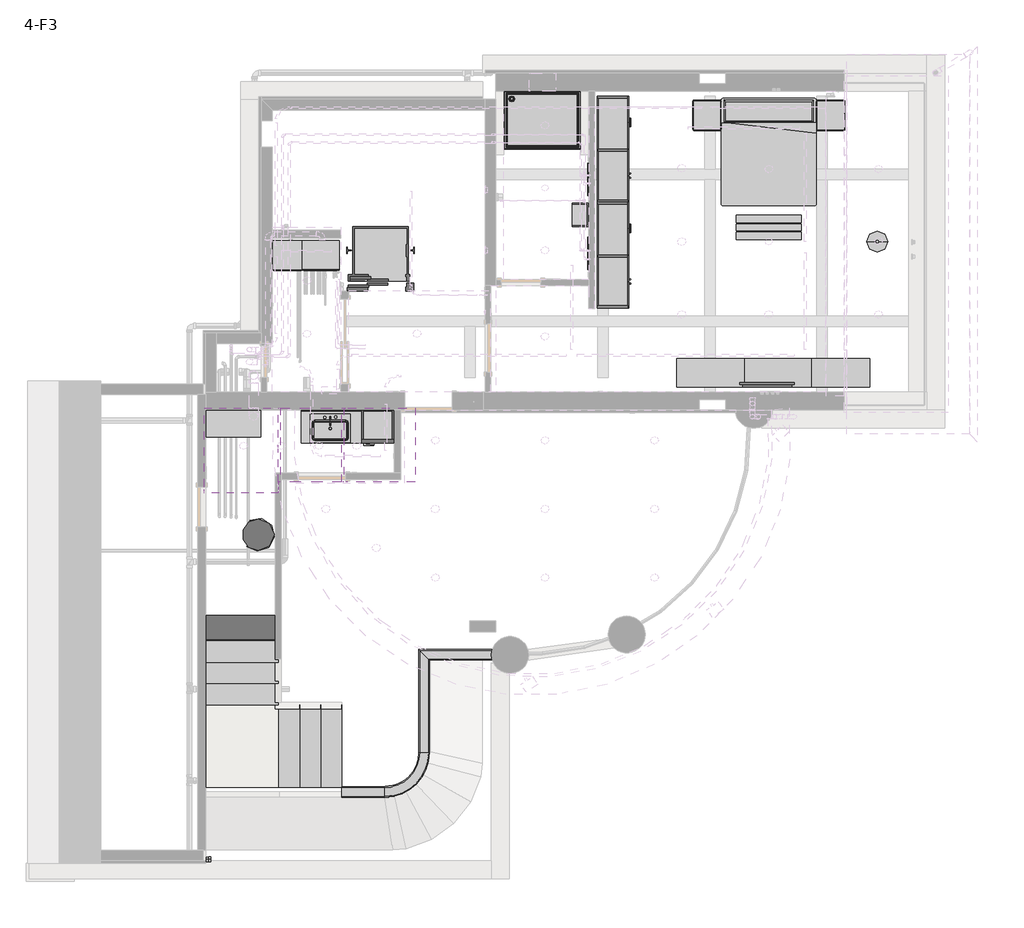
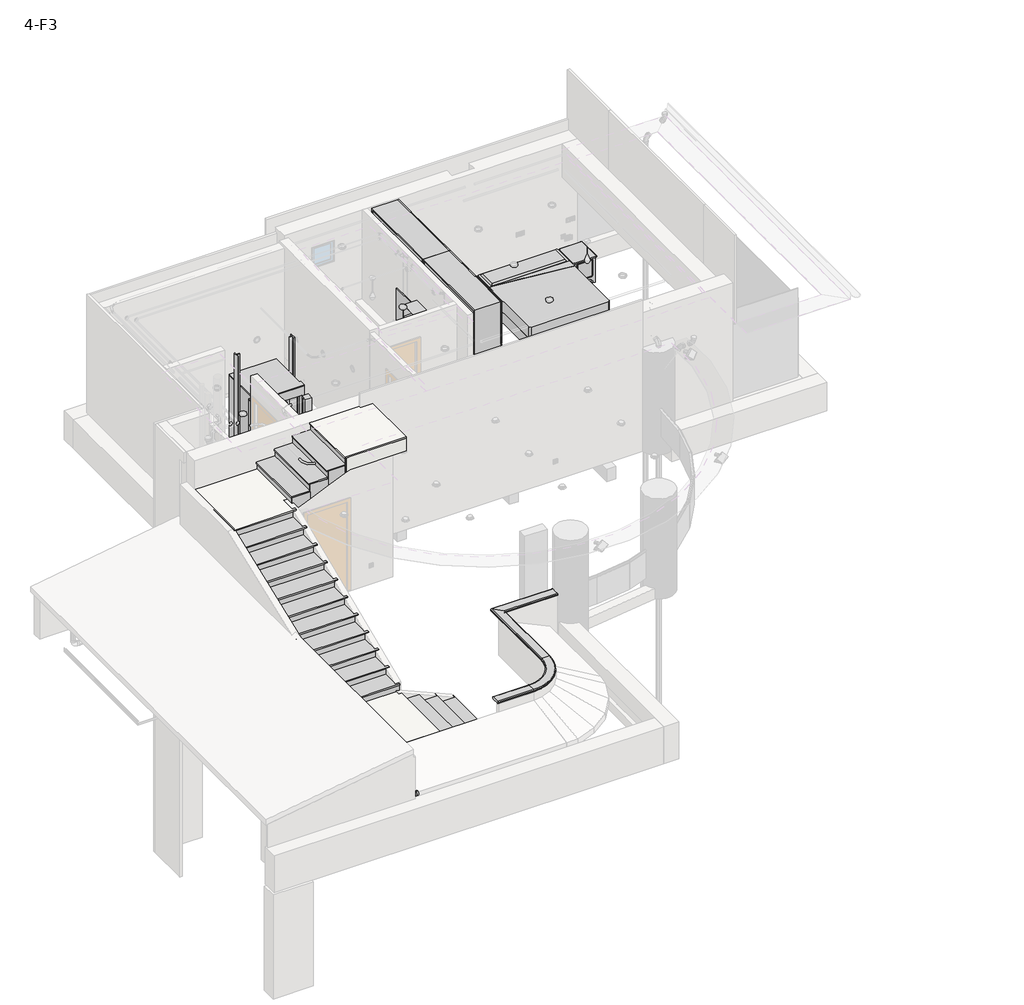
# One storey, part 4 of 11: 15 furniture elements, 4 flow terminals, 4 proxies, 3 pipe fittings, 3 slabs, 3 stair flights, 2 pipe segments, 1 railing.
"""IFC4 building model written with IfcOpenShell, lengths in millimetres."""

from ifc_helpers import new_model, si_unit, point, frame, frame_2d, origin, place, context, project, spatial, polyline, circle_curve, trimmed, segment, composite_curve, outline, extrude, faceted_brep, transform, mapped, element, save
from components import dryer_600_x_820_x_550mm_fe8a08c6, m_electric_lift_4_person_wall_based_type_1_27931067, washer_2_nz_600_x_820_x_550mm_ef1b6fe7, flow_terminal_60cm_be37bac6, floor_drain_side_discharge_round_15cm_01de1a23, m_sink_kitchen_single_760_x_535mm_d14251e7, shower_tray_1_110x_1450mm_wide_fd7da13c, furniture_10ea46e1, furniture_1wardrobe_6271_1wardrobe_6271_757ea330, bed_side_table_9129_bed_side_table_9129_b31ec6e2, bed_small_sizes_aus_king_single_10816c3c, bench_locker_room_1220_x_457_x_356mm_af128f29, counter_top_w_sink_600mm_depth_e0dbcb41, furniture_2_furniture_2_3946703e, m_table_round_200_289049f1, sideboard_1220_x_510_x_1070mm_fd823649, sideboard_1220_x_510_x_1070mm_a7be34db, furniture_91679fb3, m_bend_pvc_sch_40_dwv_standard_a4b99d37, new_rail_2_90addaf1

model = new_model("IFC4")

# Units and contexts
model_context = context("Model", 3, world=origin())
ifc_project = project(units=[si_unit("LENGTHUNIT", "METRE", prefix="MILLI")], contexts=[model_context])

# Site, building, storey
site = spatial("IfcSite", under=ifc_project)
building = spatial("IfcBuilding", under=site)
storey = spatial("IfcBuildingStorey", under=building, Name="4-F3", Elevation=9900.0)

# Proxies
placement = place(None, origin())
dryer_600_x_820_x_550mm_shape = dryer_600_x_820_x_550mm_fe8a08c6(model_context)
element("IfcBuildingElementProxy", 1, Name="Dryer : 600 x 820 x 550mm", ObjectType="Dryer : 600 x 820 x 550mm", at=placement, inside=storey, context=model_context, shape_type="MappedRepresentation", body=[
    mapped(dryer_600_x_820_x_550mm_shape, transform((-4088.7901507, 6159.4560655, 9950.0), x_axis=(-1.0, 0.0, 0.0), y_axis=(0.0, -1.0, 0.0), z_axis=(0.0, 0.0, 1.0))),
])
m_electric_lift_4_person_wall_based_type_1_shape = m_electric_lift_4_person_wall_based_type_1_27931067(model_context)
element("IfcBuildingElementProxy", 2, Name="M_Electric Lift-4 person wall based : Type 1", ObjectType="M_Electric Lift-4 person wall based : Type 1", at=placement, inside=storey, context=model_context, shape_type="MappedRepresentation", body=[
    mapped(m_electric_lift_4_person_wall_based_type_1_shape, transform((-2932.4765921, 5159.4560655, 9900.0), x_axis=(1.0, 0.0, 0.0), y_axis=(0.0, 1.0, 0.0), z_axis=(0.0, 0.0, 1.0))),
])
element("IfcBuildingElementProxy", 3, Name="Refrigerator 1 (NZ) : 600 x 660mm", ObjectType="Refrigerator 1 (NZ) : 600 x 660mm", at=placement, inside=storey, context=model_context, shape_type="SweptSolid", body=[
    extrude(outline(polyline([(11780.0, -3159.8743069), (10000.8, -3159.8743069), (10000.8, -2559.8743069), (11780.0, -2559.8743069), (11780.0, -3159.8743069)]), holes=[polyline([(11576.8, -3134.4743069), (11576.8, -2585.2743069), (10381.8, -2585.2743069), (10381.8, -3134.4743069), (11576.8, -3134.4743069)])]), frame((0.0, 2288.1986583, 0.0), z_axis=(0.0, 1.0, 0.0), x_axis=(0.0, 0.0, 1.0)), (0.0, 0.0, 1.0), 577.45),
    extrude(outline(polyline([(-3134.4743069, 2840.2486583), (-3134.4743069, 2865.6486583), (-2585.2743069, 2865.6486583), (-2585.2743069, 2840.2486583), (-3134.4743069, 2840.2486583)])), frame((0.0, 0.0, 10102.4), z_axis=(0.0, 0.0, 1.0), x_axis=(1.0, 0.0, 0.0)), (0.0, 0.0, 1.0), 1652.2),
    extrude(outline(polyline([(-3159.8743069, 2205.6486583), (-3159.8743069, 2275.4986583), (-2559.8743069, 2275.4986583), (-2559.8743069, 2205.6486583), (-3159.8743069, 2205.6486583)])), frame((0.0, 0.0, 10000.8), z_axis=(0.0, 0.0, 1.0), x_axis=(1.0, 0.0, 0.0)), (0.0, 0.0, 1.0), 1601.4),
    extrude(outline(polyline([(-3159.8743069, 2205.6486583), (-3159.8743069, 2275.4986583), (-2559.8743069, 2275.4986583), (-2559.8743069, 2205.6486583), (-3159.8743069, 2205.6486583)])), frame((0.0, 0.0, 11614.9), z_axis=(0.0, 0.0, 1.0), x_axis=(1.0, 0.0, 0.0)), (0.0, 0.0, 1.0), 165.1),
    extrude(outline(composite_curve([segment(trimmed(circle_curve(frame_2d((-2642.4243069, 2789.4486583)), 25.4), [point((-2617.0243069, 2789.4486583))], [point((-2667.8243069, 2789.4486583))], False, "CARTESIAN"), True, "CONTINUOUS"), segment(trimmed(circle_curve(frame_2d((-2642.4243069, 2789.4486583)), 25.4), [point((-2667.8243069, 2789.4486583))], [point((-2617.0243069, 2789.4486583))], False, "CARTESIAN"), True, "CONTINUOUS")], self_intersect=False)), frame((0.0, 0.0, 9950.0), z_axis=(0.0, 0.0, 1.0), x_axis=(1.0, 0.0, 0.0)), (0.0, 0.0, 1.0), 50.8),
    extrude(outline(composite_curve([segment(trimmed(circle_curve(frame_2d((-3077.3243069, 2789.4486583)), 25.4), [point((-3051.9243069, 2789.4486583))], [point((-3102.7243069, 2789.4486583))], False, "CARTESIAN"), True, "CONTINUOUS"), segment(trimmed(circle_curve(frame_2d((-3077.3243069, 2789.4486583)), 25.4), [point((-3102.7243069, 2789.4486583))], [point((-3051.9243069, 2789.4486583))], False, "CARTESIAN"), True, "CONTINUOUS")], self_intersect=False)), frame((0.0, 0.0, 9950.0), z_axis=(0.0, 0.0, 1.0), x_axis=(1.0, 0.0, 0.0)), (0.0, 0.0, 1.0), 50.8),
    extrude(outline(composite_curve([segment(trimmed(circle_curve(frame_2d((-2642.4243069, 2332.6486583)), 25.4), [point((-2617.0243069, 2332.6486583))], [point((-2667.8243069, 2332.6486583))], False, "CARTESIAN"), True, "CONTINUOUS"), segment(trimmed(circle_curve(frame_2d((-2642.4243069, 2332.6486583)), 25.4), [point((-2667.8243069, 2332.6486583))], [point((-2617.0243069, 2332.6486583))], False, "CARTESIAN"), True, "CONTINUOUS")], self_intersect=False)), frame((0.0, 0.0, 9950.0), z_axis=(0.0, 0.0, 1.0), x_axis=(1.0, 0.0, 0.0)), (0.0, 0.0, 1.0), 50.8),
    extrude(outline(composite_curve([segment(trimmed(circle_curve(frame_2d((-3077.3243069, 2332.6486583)), 25.4), [point((-3051.9243069, 2332.6486583))], [point((-3102.7243069, 2332.6486583))], False, "CARTESIAN"), True, "CONTINUOUS"), segment(trimmed(circle_curve(frame_2d((-3077.3243069, 2332.6486583)), 25.4), [point((-3102.7243069, 2332.6486583))], [point((-3051.9243069, 2332.6486583))], False, "CARTESIAN"), True, "CONTINUOUS")], self_intersect=False)), frame((0.0, 0.0, 9950.0), z_axis=(0.0, 0.0, 1.0), x_axis=(1.0, 0.0, 0.0)), (0.0, 0.0, 1.0), 50.8),
    extrude(outline(polyline([(-3121.7743069, 2161.329882), (-3121.7743069, 2205.6486583), (-3082.5996914, 2205.6486583), (-3082.5996914, 2186.3977063), (-2938.8510878, 2171.1791754), (-2928.9027521, 2184.6864613), (-2922.3995232, 2179.8967274), (-2936.0743069, 2161.329882), (-3121.7743069, 2161.329882)])), frame((0.0, 0.0, 11021.927792), z_axis=(0.0, 0.0, 1.0), x_axis=(1.0, 0.0, 0.0)), (0.0, 0.0, 1.0), 31.75),
])
washer_2_nz_600_x_820_x_550mm_shape = washer_2_nz_600_x_820_x_550mm_ef1b6fe7(model_context)
element("IfcBuildingElementProxy", 4, Name="Washer 2 (NZ) : 600 x 820 x 550mm", ObjectType="Washer 2 (NZ) : 600 x 820 x 550mm", at=placement, inside=storey, context=model_context, shape_type="MappedRepresentation", body=[
    mapped(washer_2_nz_600_x_820_x_550mm_shape, transform((-4708.7901507, 6159.4560655, 9900.0), x_axis=(-1.0, 0.0, 0.0), y_axis=(0.0, -1.0, 0.0), z_axis=(0.0, 0.0, 1.0))),
])

# Flow terminals
flow_terminal_60cm_shape = flow_terminal_60cm_be37bac6(model_context)
element("IfcFlowTerminal", 5, ObjectType="_DUPLEX SOFTENER 60CM - : 60CM", at=placement, inside=storey, context=model_context, shape_type="MappedRepresentation", body=[
    mapped(flow_terminal_60cm_shape, transform((-5120.0, 476.4863231, 9950.0), x_axis=(0.0, -1.0, 0.0), y_axis=(1.0, 0.0, 0.0), z_axis=(0.0, 0.0, 1.0))),
])
floor_drain_side_discharge_round_15cm_shape = floor_drain_side_discharge_round_15cm_01de1a23(model_context)
element("IfcFlowTerminal", 6, ObjectType="Floor Drain Side Discharge Round : 15cm", at=placement, inside=storey, context=model_context, shape_type="MappedRepresentation", body=[
    mapped(floor_drain_side_discharge_round_15cm_shape, transform((-377.4765921, 8711.6620874, 9950.0), x_axis=(1.0, 0.0, 0.0), y_axis=(0.0, 1.0, 0.0), z_axis=(0.0, 0.0, 1.0))),
])
m_sink_kitchen_single_760_x_535mm_shape = m_sink_kitchen_single_760_x_535mm_d14251e7(model_context)
element("IfcFlowTerminal", 7, ObjectType="M_Sink Kitchen-Single : 760 x 535mm", at=placement, inside=storey, context=model_context, shape_type="MappedRepresentation", body=[
    mapped(m_sink_kitchen_single_760_x_535mm_shape, transform((-3773.1658327, 2484.140922, 9950.0), x_axis=(1.0, 0.0, 0.0), y_axis=(0.0, 1.0, 0.0), z_axis=(0.0, 0.0, 1.0))),
])
shower_tray_1_110x_1450mm_wide_shape = shower_tray_1_110x_1450mm_wide_fd7da13c(model_context)
element("IfcFlowTerminal", 8, ObjectType="Shower Tray (1) : 110x 1450mm Wide", at=placement, inside=storey, context=model_context, shape_type="MappedRepresentation", body=[
    mapped(shower_tray_1_110x_1450mm_wide_shape, transform((247.5234079, 8311.6620874, 9950.0), x_axis=(1.0, 0.0, 0.0), y_axis=(0.0, 1.0, 0.0), z_axis=(0.0, 0.0, 1.0))),
])

# Furniture
furniture_shape = furniture_10ea46e1(model_context)
element("IfcFurniture", 9, ObjectType="Hamilton-Sorter_Modular-Casework_Storage-Cabinet_Open : Hamilton-Sorter_Modular-Casework_Storage-Cabinet_Open", at=placement, inside=storey, context=model_context, shape_type="MappedRepresentation", body=[
    mapped(furniture_shape, transform((1579.5234079, 6519.8354313, 10850.0), x_axis=(0.0, -1.0, 0.0), y_axis=(1.0, 0.0, 0.0), z_axis=(0.0, 0.0, 1.0))),
])
furniture_1wardrobe_6271_1wardrobe_6271_shape = furniture_1wardrobe_6271_1wardrobe_6271_757ea330(model_context)
element("IfcFurniture", 10, ObjectType="1Wardrobe_6271 : 1Wardrobe_6271", at=placement, inside=storey, context=model_context, shape_type="MappedRepresentation", body=[
    mapped(furniture_1wardrobe_6271_1wardrobe_6271_shape, transform((1282.5234079, 6761.6620874, 9950.0), x_axis=(0.0, 1.0, 0.0), y_axis=(-1.0, 0.0, 0.0), z_axis=(0.0, 0.0, 1.0))),
])
element("IfcFurniture", 11, ObjectType="1Wardrobe_6271 : 1Wardrobe_6271", at=placement, inside=storey, context=model_context, shape_type="MappedRepresentation", body=[
    mapped(furniture_1wardrobe_6271_1wardrobe_6271_shape, transform((1282.5234079, 4761.6620874, 9950.0), x_axis=(0.0, 1.0, 0.0), y_axis=(-1.0, 0.0, 0.0), z_axis=(0.0, 0.0, 1.0))),
])
bed_side_table_9129_bed_side_table_9129_shape = bed_side_table_9129_bed_side_table_9129_b31ec6e2(model_context)
element("IfcFurniture", 12, ObjectType="BED_SIDE_TABLE_9129 : BED_SIDE_TABLE_9129", at=placement, inside=storey, context=model_context, shape_type="MappedRepresentation", body=[
    mapped(bed_side_table_9129_bed_side_table_9129_shape, transform((3395.1712416, 8360.0, 9950.0), x_axis=(0.0, 1.0, 0.0), y_axis=(-1.0, 0.0, 0.0), z_axis=(0.0, 0.0, 1.0))),
])
element("IfcFurniture", 13, ObjectType="BED_SIDE_TABLE_9129 : BED_SIDE_TABLE_9129", at=placement, inside=storey, context=model_context, shape_type="MappedRepresentation", body=[
    mapped(bed_side_table_9129_bed_side_table_9129_shape, transform((5730.1712416, 8360.0, 9950.0), x_axis=(0.0, 1.0, 0.0), y_axis=(-1.0, 0.0, 0.0), z_axis=(0.0, 0.0, 1.0))),
])
bed_small_sizes_aus_king_single_shape = bed_small_sizes_aus_king_single_10816c3c(model_context)
element("IfcFurniture", 14, ObjectType="Bed - Small Sizes (AUS) : King Single", at=placement, inside=storey, context=model_context, shape_type="MappedRepresentation", body=[
    mapped(bed_small_sizes_aus_king_single_shape, transform((4547.8744584, 8721.6620874, 9950.0), x_axis=(1.0, 0.0, 0.0), y_axis=(0.0, 1.0, 0.0), z_axis=(0.0, 0.0, 1.0))),
])
bench_locker_room_1220_x_457_x_356mm_shape = bench_locker_room_1220_x_457_x_356mm_af128f29(model_context)
element("IfcFurniture", 15, ObjectType="Bench - Locker Room : 1220 x 457 x 356mm", at=placement, inside=storey, context=model_context, shape_type="MappedRepresentation", body=[
    mapped(bench_locker_room_1220_x_457_x_356mm_shape, transform((4680.515203, 6465.1708196, 9950.0), x_axis=(1.0, 0.0, 0.0), y_axis=(0.0, 1.0, 0.0), z_axis=(0.0, 0.0, 1.0))),
])
element("IfcFurniture", 16, ObjectType="Counter Top - Island : 1220mm Depth", at=placement, inside=storey, context=model_context, shape_type="SweptSolid", body=[
    extrude(outline(polyline([(-6110.0, 2830.6486583), (-5066.3015921, 2830.6486583), (-5066.3015921, 2320.6486583), (-6110.0, 2320.6486583), (-6110.0, 2830.6486583)])), frame((0.0, 0.0, 10810.0), z_axis=(0.0, 0.0, 1.0), x_axis=(1.0, 0.0, 0.0)), (0.0, 0.0, 1.0), 40.0),
])
counter_top_w_sink_600mm_depth_shape = counter_top_w_sink_600mm_depth_e0dbcb41(model_context)
element("IfcFurniture", 17, ObjectType="Counter Top w Sink : 600mm Depth", at=placement, inside=storey, context=model_context, shape_type="MappedRepresentation", body=[
    mapped(counter_top_w_sink_600mm_depth_shape, transform((-3106.9539601, 2830.6486583, 9950.0), x_axis=(1.0, 0.0, 0.0), y_axis=(0.0, 1.0, 0.0), z_axis=(0.0, 0.0, 1.0))),
])
furniture_2_furniture_2_shape = furniture_2_furniture_2_3946703e(model_context)
element("IfcFurniture", 18, ObjectType="Furniture 2 : Furniture 2", at=placement, inside=storey, context=model_context, shape_type="MappedRepresentation", body=[
    mapped(furniture_2_furniture_2_shape, transform((0.0, 0.0, 0.0), x_axis=(1.0, 0.0, 0.0), y_axis=(0.0, 1.0, 0.0), z_axis=(0.0, 0.0, 1.0))),
])
m_table_round_200_shape = m_table_round_200_289049f1(model_context)
element("IfcFurniture", 19, ObjectType="M_Table-Round : 200", at=placement, inside=storey, context=model_context, shape_type="MappedRepresentation", body=[
    mapped(m_table_round_200_shape, transform((6574.8425957, 6013.8093331, 9900.0), x_axis=(1.0, 0.0, 0.0), y_axis=(0.0, 1.0, 0.0), z_axis=(0.0, 0.0, 1.0))),
])
sideboard_1220_x_510_x_1070mm_shape = sideboard_1220_x_510_x_1070mm_fd823649(model_context)
element("IfcFurniture", 20, ObjectType="Sideboard : 1220 x 510 x 1070mm", at=placement, inside=storey, context=model_context, shape_type="MappedRepresentation", body=[
    mapped(sideboard_1220_x_510_x_1070mm_shape, transform((5501.4071891, 3158.323369, 9950.0), x_axis=(-1.0, 0.0, 0.0), y_axis=(0.0, -1.0, 0.0), z_axis=(0.0, 0.0, 1.0))),
])
element("IfcFurniture", 21, ObjectType="Sideboard : 1220 x 510 x 1070mm", at=placement, inside=storey, context=model_context, shape_type="MappedRepresentation", body=[
    mapped(sideboard_1220_x_510_x_1070mm_shape, transform((3131.4675635, 3158.323369, 9950.0), x_axis=(-1.0, 0.0, 0.0), y_axis=(0.0, -1.0, 0.0), z_axis=(0.0, 0.0, 1.0))),
])
sideboard_1220_x_510_x_1070mm_2_shape = sideboard_1220_x_510_x_1070mm_a7be34db(model_context)
element("IfcFurniture", 22, ObjectType="Sideboard : 1220 x 510 x 1070mm", at=placement, inside=storey, context=model_context, shape_type="MappedRepresentation", body=[
    mapped(sideboard_1220_x_510_x_1070mm_2_shape, transform((4991.4540832, 3158.323369, 9950.0), x_axis=(1.0, 0.0, 0.0), y_axis=(0.0, 1.0, 0.0), z_axis=(0.0, 0.0, 1.0))),
])
furniture_2_shape = furniture_91679fb3(model_context)
element("IfcFurniture", 23, ObjectType="Television - Plasma : 42\"", at=placement, inside=storey, context=model_context, shape_type="MappedRepresentation", body=[
    mapped(furniture_2_shape, transform((4550.67749, 3266.4863231, 11050.0), x_axis=(-1.0, 0.0, 0.0), y_axis=(0.0, -1.0, 0.0), z_axis=(0.0, 0.0, 1.0))),
])

# Pipe fittings
m_bend_pvc_sch_40_dwv_standard_shape = m_bend_pvc_sch_40_dwv_standard_a4b99d37(model_context)
element("IfcPipeFitting", 24, ObjectType="M_Bend - PVC - Sch 40 - DWV : Standard", at=placement, inside=storey, context=model_context, shape_type="MappedRepresentation", body=[
    mapped(m_bend_pvc_sch_40_dwv_standard_shape, transform((-6417.4765921, -5661.5598816, 9903.4220341), x_axis=(0.0, -1.0, 0.0), y_axis=(1.0, 0.0, 0.0), z_axis=(0.0, 0.0, 1.0))),
])
element("IfcPipeFitting", 25, ObjectType="M_Bend - PVC - Sch 40 - DWV : Standard", at=placement, inside=storey, context=model_context, shape_type="MappedRepresentation", body=[
    mapped(m_bend_pvc_sch_40_dwv_standard_shape, transform((-6132.4765921, -5661.5598816, 9903.4220341), x_axis=(1.0, 0.0, 0.0), y_axis=(0.0, 0.0, 1.0), z_axis=(0.0, -1.0, 0.0))),
])
element("IfcPipeFitting", 26, ObjectType="M_Bend - PVC - Sch 40 - DWV : Standard", at=placement, inside=storey, context=model_context, shape_type="MappedRepresentation", body=[
    mapped(m_bend_pvc_sch_40_dwv_standard_shape, transform((-6132.4765921, -5661.5599954, 10400.0), x_axis=(0.0, 0.0, 1.0), y_axis=(1.0, 0.0, 0.0), z_axis=(0.0, 1.0, 0.0))),
])

# Pipe segments
element("IfcPipeSegment", 27, ObjectType="PVC - DWV", at=placement, inside=storey, context=model_context, shape_type="SweptSolid", body=[
    extrude(outline(composite_curve([segment(trimmed(circle_curve(frame_2d((-5661.5598816, 9903.4220341)), 44.45), [point((-5617.1098816, 9903.4220341))], [point((-5661.5598816, 9858.9720341))], False, "CARTESIAN"), True, "CONTINUOUS"), segment(trimmed(circle_curve(frame_2d((-5661.5598816, 9903.4220341)), 44.45), [point((-5661.5598816, 9858.9720341))], [point((-5706.0098816, 9903.4220341))], False, "CARTESIAN"), True, "CONTINUOUS"), segment(trimmed(circle_curve(frame_2d((-5661.5598816, 9903.4220341)), 44.45), [point((-5706.0098816, 9903.4220341))], [point((-5661.5598816, 9947.8720341))], False, "CARTESIAN"), True, "CONTINUOUS"), segment(trimmed(circle_curve(frame_2d((-5661.5598816, 9903.4220341)), 44.45), [point((-5661.5598816, 9947.8720341))], [point((-5617.1098816, 9903.4220341))], False, "CARTESIAN"), True, "CONTINUOUS")], self_intersect=False)), frame((-6301.5763921, 0.0, 0.0), z_axis=(1.0, 0.0, 0.0), x_axis=(0.0, 1.0, 0.0)), (0.0, 0.0, 1.0), 53.1996),
])
element("IfcPipeSegment", 28, ObjectType="PVC - DWV", at=placement, inside=storey, context=model_context, shape_type="SweptSolid", body=[
    extrude(outline(composite_curve([segment(trimmed(circle_curve(frame_2d((0.0, 44.45)), 44.45), [point((-44.45, 44.45))], [point((0.0, 88.9))], False, "CARTESIAN"), True, "CONTINUOUS"), segment(trimmed(circle_curve(frame_2d((0.0, 44.45)), 44.45), [point((0.0, 88.9))], [point((44.45, 44.45))], False, "CARTESIAN"), True, "CONTINUOUS"), segment(trimmed(circle_curve(frame_2d((0.0, 44.45)), 44.45), [point((44.45, 44.45))], [point((0.0, 0.0))], False, "CARTESIAN"), True, "CONTINUOUS"), segment(trimmed(circle_curve(frame_2d((0.0, 44.45)), 44.45), [point((0.0, 0.0))], [point((-44.45, 44.45))], False, "CARTESIAN"), True, "CONTINUOUS")], self_intersect=False)), frame((-6132.4765921, -5706.0098816, 10019.322215), z_axis=(0.0, -4.29689277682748e-07, 0.9999999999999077), x_axis=(1.0, 0.0, 0.0)), (0.0, 0.0, 1.0), 264.7775659),
])

# Railing
new_rail_2_shape = new_rail_2_90addaf1(model_context)
element("IfcRailing", 29, ObjectType="new rail 2", at=placement, inside=storey, context=model_context, shape_type="MappedRepresentation", body=[
    mapped(new_rail_2_shape, transform((0.0, 0.0, 0.0), x_axis=(1.0, 0.0, 0.0), y_axis=(0.0, 1.0, 0.0), z_axis=(0.0, 0.0, 1.0))),
])

# Slabs
element("IfcSlab", 30, ObjectType="300mm Thickness", at=placement, inside=storey, context=model_context, shape_type="SolidModel", body=[
    faceted_brep([(-4768.5979415, -4296.2348475, 10554.2105263), (-4768.5979415, -2738.0228963, 10554.2105263), (-4736.0979415, -2738.0228963, 10554.2105263), (-4736.0979415, -2705.5228963, 10554.2105263), (-6136.0979415, -2705.5228963, 10554.2105263), (-6136.0979415, -2738.0228963, 10554.2105263), (-6136.0979415, -3025.5655476, 10554.2105263), (-6136.0979415, -4296.2348475, 10554.2105263), (-4848.5552902, -4296.2348475, 10554.2105263), (-4768.5979415, -4296.2348475, 10383.1578947), (-4768.5979415, -4296.2348475, 10220.018239), (-4768.5979415, -2738.0228963, 10220.018239), (-4768.5979415, -2738.0228963, 10377.1728443), (-4768.5979415, -2738.0228963, 10383.1578947), (-4736.0979415, -2738.0228963, 10377.1728443), (-4736.0979415, -2705.5228963, 10391.0708706), (-6136.0979415, -2705.5228963, 10391.0708706), (-6136.0979415, -2738.0228963, 10377.1728443), (-6136.0979415, -3025.5655476, 10254.2105263), (-6136.0979415, -4296.2348475, 10254.2105263), (-4848.5552902, -4296.2348475, 10254.2105263), (-4848.5552902, -3025.5655476, 10254.2105263), (-4848.5552902, -2738.0228963, 10254.2105263), (-4848.5552902, -2738.0228963, 10377.1728443)], [[[0, 1, 2, 3, 4, 5, 6, 7, 8]], [[1, 0, 9, 10, 11, 12, 13]], [[2, 1, 13, 12, 14]], [[3, 2, 14, 15]], [[4, 3, 15, 16]], [[5, 4, 16, 17]], [[5, 17, 18, 19, 7, 6]], [[10, 9, 0, 8, 7, 19, 20]], [[21, 20, 19, 18]], [[21, 22, 11, 10, 20]], [[22, 21, 23]], [[22, 23, 12, 11]], [[21, 18, 17, 16, 15, 14, 12, 23]]]),
    extrude(outline(polyline([(-4736.0979415, -4296.2348475), (-6136.0979415, -4296.2348475), (-6136.0979415, -2738.0228963), (-6136.0979415, -2718.0228963), (-4736.0979415, -2718.0228963), (-4736.0979415, -2738.0228963), (-4736.0979415, -4296.2348475)])), frame((0.0, 0.0, 10554.2105263), z_axis=(0.0, 0.0, 1.0), x_axis=(1.0, 0.0, 0.0)), (0.0, 0.0, 1.0), 30.0),
])
element("IfcSlab", 31, ObjectType="300mm Thickness", at=placement, inside=storey, context=model_context, shape_type="SolidModel", body=[
    faceted_brep([(-6136.0979415, 1294.4771037, 12435.7894737), (-4736.0979415, 1294.4771037, 12435.7894737), (-4736.0979415, 1374.4344524, 12435.7894737), (-4736.0979415, 1473.7304006, 12435.7894737), (-4703.5979415, 1473.7304006, 12435.7894737), (-4703.5979415, 2873.7304006, 12435.7894737), (-4736.0979415, 2873.7304006, 12435.7894737), (-5023.6405927, 2873.7304006, 12435.7894737), (-6136.0979415, 2873.7304006, 12435.7894737), (-6136.0979415, 1374.4344524, 12435.7894737), (-6136.0979415, 1294.4771037, 12264.7368421), (-6136.0979415, 1294.4771037, 12101.5971864), (-4736.0979415, 1294.4771037, 12101.5971864), (-4736.0979415, 1294.4771037, 12264.7368421), (-4736.0979415, 1374.4344524, 12135.7894737), (-4736.0979415, 1473.7304006, 12135.7894737), (-4736.0979415, 1473.7304006, 12258.7517917), (-4703.5979415, 1473.7304006, 12272.649818), (-4703.5979415, 2873.7304006, 12272.649818), (-4736.0979415, 2873.7304006, 12258.7517917), (-5023.6405927, 2873.7304006, 12135.7894737), (-6136.0979415, 2873.7304006, 12135.7894737), (-6136.0979415, 1374.4344524, 12135.7894737), (-5023.6405927, 1473.7304006, 12135.7894737)], [[[0, 1, 2, 3, 4, 5, 6, 7, 8, 9]], [[1, 0, 10, 11, 12, 13]], [[1, 13, 12, 14, 15, 16, 3, 2]], [[4, 3, 16, 17]], [[5, 4, 17, 18]], [[6, 5, 18, 19]], [[6, 19, 20, 21, 8, 7]], [[11, 10, 0, 9, 8, 21, 22]], [[23, 15, 14, 22, 21, 20]], [[15, 23, 16]], [[22, 14, 12, 11]], [[23, 20, 19, 18, 17, 16]]]),
    extrude(outline(polyline([(-6136.0979415, 1261.9771037), (-6136.0979415, 2873.7304006), (-4736.0979415, 2873.7304006), (-4716.0979415, 2873.7304006), (-4716.0979415, 1473.7304006), (-4736.0979415, 1473.7304006), (-4736.0979415, 1261.9771037), (-6136.0979415, 1261.9771037)])), frame((0.0, 0.0, 12435.7894737), z_axis=(0.0, 0.0, 1.0), x_axis=(1.0, 0.0, 0.0)), (0.0, 0.0, 1.0), 30.0),
])
element("IfcSlab", 32, ObjectType="300mm Thickness", at=placement, inside=storey, context=model_context, shape_type="SolidModel", body=[
    faceted_brep([(-3503.5979415, 2873.7304006, 13120.0), (-3503.5979415, 1473.7304006, 13120.0), (-3423.6405927, 1473.7304006, 13120.0), (-2154.3144505, 1473.7304006, 13120.0), (-2154.3144505, 2873.7304006, 13120.0), (-3423.6405927, 2873.7304006, 13120.0), (-2154.3144505, 1473.7304006, 12820.0), (-2154.3144505, 2873.7304006, 12820.0), (-3503.5979415, 2873.7304006, 12785.8077127), (-3503.5979415, 2873.7304006, 12948.9473684), (-3423.6405927, 2873.7304006, 12820.0), (-3503.5979415, 1473.7304006, 12948.9473684), (-3503.5979415, 1473.7304006, 12785.8077127), (-3423.6405927, 1473.7304006, 12820.0)], [[[0, 1, 2, 3, 4, 5]], [[4, 3, 6, 7]], [[8, 9, 0, 5, 4, 7, 10]], [[1, 11, 12, 13, 6, 3, 2]], [[13, 10, 7, 6]], [[1, 0, 9, 8, 12, 11]], [[10, 13, 12, 8]]]),
    extrude(outline(polyline([(-3536.0979415, 2873.7304006), (-2154.3144505, 2873.7304006), (-2154.3144505, 1473.7304006), (-3536.0979415, 1473.7304006), (-3536.0979415, 2873.7304006)])), frame((0.0, 0.0, 13120.0), z_axis=(0.0, 0.0, 1.0), x_axis=(1.0, 0.0, 0.0)), (0.0, 0.0, 1.0), 30.0),
])

# Stair flights
element("IfcStairFlight", 33, ObjectType="150mm Depth", at=placement, inside=storey, context=model_context, shape_type="SolidModel", body=[
    faceted_brep([(-3968.5979415, -4296.2348475, 10041.0526316), (-3568.5979415, -4296.2348475, 10041.0526316), (-3568.5979415, -2738.0228963, 10041.0526316), (-3968.5979415, -2738.0228963, 10041.0526316), (-3968.5979415, -4296.2348475, 9900.0), (-3568.5979415, -4296.2348475, 9900.0), (-3568.5979415, -2738.0228963, 9900.0), (-3968.5979415, -2738.0228963, 9900.0), (-4368.5979415, -4296.2348475, 10212.1052632), (-3968.5979415, -4296.2348475, 10212.1052632), (-3968.5979415, -2738.0228963, 10212.1052632), (-4368.5979415, -2738.0228963, 10212.1052632), (-4368.5979415, -4296.2348475, 10048.9656074), (-4020.2475979, -4296.2348475, 9900.0), (-4020.2475979, -2738.0228963, 9900.0), (-4368.5979415, -2738.0228963, 10048.9656074), (-4736.0979415, -4296.2348475, 10206.1202127), (-4768.5979415, -4296.2348475, 10220.018239), (-4768.5979415, -2738.0228963, 10220.018239), (-4736.0979415, -2738.0228963, 10206.1202127), (-4768.5979415, -4296.2348475, 10383.1578947), (-4736.0979415, -4296.2348475, 10383.1578947), (-4368.5979415, -4296.2348475, 10383.1578947), (-4368.5979415, -2738.0228963, 10383.1578947), (-4736.0979415, -2738.0228963, 10383.1578947), (-4768.5979415, -2738.0228963, 10383.1578947), (-4768.5979415, -2738.0228963, 10377.1728443)], [[[0, 1, 2, 3]], [[1, 0, 4, 5]], [[2, 1, 5, 6]], [[3, 2, 6, 7]], [[8, 9, 10, 11]], [[4, 0, 9, 8, 12, 13]], [[0, 3, 10, 9]], [[3, 7, 14, 15, 11, 10]], [[5, 4, 13, 14, 7, 6]], [[14, 13, 12, 16, 17, 18, 19, 15]], [[20, 21, 22, 23, 24, 25]], [[21, 20, 17, 16]], [[22, 21, 16, 12, 8]], [[8, 11, 23, 22]], [[24, 23, 11, 15, 19]], [[25, 24, 19, 18, 26]], [[20, 25, 26, 18, 17]]]),
    extrude(outline(polyline([(-3568.5979415, -2738.0228963), (-3556.0979415, -2738.0228963), (-3556.0979415, -4296.2348475), (-3568.5979415, -4296.2348475), (-3568.5979415, -2738.0228963)])), frame((0.0, 0.0, 9900.0), z_axis=(0.0, 0.0, 1.0), x_axis=(1.0, 0.0, 0.0)), (0.0, 0.0, 1.0), 141.0526316),
    extrude(outline(polyline([(-3956.0979415, -4296.2348475), (-3956.0979415, -2738.0228963), (-3536.0979415, -2738.0228963), (-3536.0979415, -4296.2348475), (-3956.0979415, -4296.2348475)])), frame((0.0, 0.0, 10041.0526316), z_axis=(0.0, 0.0, 1.0), x_axis=(1.0, 0.0, 0.0)), (0.0, 0.0, 1.0), 30.0),
    extrude(outline(polyline([(-3968.5979415, -2738.0228963), (-3956.0979415, -2738.0228963), (-3956.0979415, -4296.2348475), (-3968.5979415, -4296.2348475), (-3968.5979415, -2738.0228963)])), frame((0.0, 0.0, 10041.0526316), z_axis=(0.0, 0.0, 1.0), x_axis=(1.0, 0.0, 0.0)), (0.0, 0.0, 1.0), 171.0526316),
    extrude(outline(polyline([(-4356.0979415, -4296.2348475), (-4356.0979415, -2738.0228963), (-3936.0979415, -2738.0228963), (-3936.0979415, -4296.2348475), (-4356.0979415, -4296.2348475)])), frame((0.0, 0.0, 10212.1052632), z_axis=(0.0, 0.0, 1.0), x_axis=(1.0, 0.0, 0.0)), (0.0, 0.0, 1.0), 30.0),
    extrude(outline(polyline([(-4768.5979415, -2738.0228963), (-4756.0979415, -2738.0228963), (-4756.0979415, -4296.2348475), (-4768.5979415, -4296.2348475), (-4768.5979415, -2738.0228963)])), frame((0.0, 0.0, 10383.1578947), z_axis=(0.0, 0.0, 1.0), x_axis=(1.0, 0.0, 0.0)), (0.0, 0.0, 1.0), 171.0526316),
    extrude(outline(polyline([(-4368.5979415, -2738.0228963), (-4356.0979415, -2738.0228963), (-4356.0979415, -4296.2348475), (-4368.5979415, -4296.2348475), (-4368.5979415, -2738.0228963)])), frame((0.0, 0.0, 10212.1052632), z_axis=(0.0, 0.0, 1.0), x_axis=(1.0, 0.0, 0.0)), (0.0, 0.0, 1.0), 171.0526316),
    extrude(outline(polyline([(-4756.0979415, -4296.2348475), (-4756.0979415, -2738.0228963), (-4736.0979415, -2738.0228963), (-4336.0979415, -2738.0228963), (-4336.0979415, -4296.2348475), (-4736.0979415, -4296.2348475), (-4756.0979415, -4296.2348475)])), frame((0.0, 0.0, 10383.1578947), z_axis=(0.0, 0.0, 1.0), x_axis=(1.0, 0.0, 0.0)), (0.0, 0.0, 1.0), 30.0),
])
element("IfcStairFlight", 34, ObjectType="150mm Depth", at=placement, inside=storey, context=model_context, shape_type="SolidModel", body=[
    faceted_brep([(-6136.0979415, -2305.5228963, 10725.2631579), (-6136.0979415, -2705.5228963, 10725.2631579), (-4736.0979415, -2705.5228963, 10725.2631579), (-4736.0979415, -2305.5228963, 10725.2631579), (-6136.0979415, -2305.5228963, 10562.1235022), (-6136.0979415, -2705.5228963, 10391.0708706), (-6136.0979415, -2705.5228963, 10554.2105263), (-4736.0979415, -2705.5228963, 10391.0708706), (-4736.0979415, -2705.5228963, 10554.2105263), (-4736.0979415, -2305.5228963, 10562.1235022), (-6136.0979415, -1905.5228963, 10896.3157895), (-6136.0979415, -2305.5228963, 10896.3157895), (-4736.0979415, -2305.5228963, 10896.3157895), (-4736.0979415, -1905.5228963, 10896.3157895), (-6136.0979415, -1905.5228963, 10733.1761338), (-4736.0979415, -1905.5228963, 10733.1761338), (-6136.0979415, -1505.5228963, 11067.3684211), (-6136.0979415, -1905.5228963, 11067.3684211), (-4736.0979415, -1905.5228963, 11067.3684211), (-4736.0979415, -1505.5228963, 11067.3684211), (-6136.0979415, -1505.5228963, 10904.2287653), (-4736.0979415, -1505.5228963, 10904.2287653), (-6136.0979415, -1105.5228963, 11238.4210526), (-6136.0979415, -1505.5228963, 11238.4210526), (-4736.0979415, -1505.5228963, 11238.4210526), (-4736.0979415, -1105.5228963, 11238.4210526), (-6136.0979415, -1105.5228963, 11075.2813969), (-4736.0979415, -1105.5228963, 11075.2813969), (-6136.0979415, -705.5228963, 11409.4736842), (-6136.0979415, -1105.5228963, 11409.4736842), (-4736.0979415, -1105.5228963, 11409.4736842), (-4736.0979415, -705.5228963, 11409.4736842), (-6136.0979415, -705.5228963, 11246.3340285), (-4736.0979415, -705.5228963, 11246.3340285), (-6136.0979415, -305.5228963, 11580.5263158), (-6136.0979415, -705.5228963, 11580.5263158), (-4736.0979415, -705.5228963, 11580.5263158), (-4736.0979415, -305.5228963, 11580.5263158), (-6136.0979415, -305.5228963, 11417.3866601), (-4736.0979415, -305.5228963, 11417.3866601), (-6136.0979415, 94.4771037, 11751.5789474), (-6136.0979415, -305.5228963, 11751.5789474), (-4736.0979415, -305.5228963, 11751.5789474), (-4736.0979415, 94.4771037, 11751.5789474), (-6136.0979415, 94.4771037, 11588.4392917), (-4736.0979415, 94.4771037, 11588.4392917), (-6136.0979415, 494.4771037, 11922.6315789), (-6136.0979415, 94.4771037, 11922.6315789), (-4736.0979415, 94.4771037, 11922.6315789), (-4736.0979415, 494.4771037, 11922.6315789), (-6136.0979415, 494.4771037, 11759.4919232), (-4736.0979415, 494.4771037, 11759.4919232), (-6136.0979415, 894.4771037, 12093.6842105), (-6136.0979415, 494.4771037, 12093.6842105), (-4736.0979415, 494.4771037, 12093.6842105), (-4736.0979415, 894.4771037, 12093.6842105), (-6136.0979415, 894.4771037, 11930.5445548), (-4736.0979415, 894.4771037, 11930.5445548), (-6136.0979415, 1261.9771037, 12087.6991601), (-6136.0979415, 1294.4771037, 12101.5971864), (-4736.0979415, 1294.4771037, 12101.5971864), (-4736.0979415, 1261.9771037, 12087.6991601), (-6136.0979415, 1294.4771037, 12264.7368421), (-6136.0979415, 1261.9771037, 12264.7368421), (-6136.0979415, 894.4771037, 12264.7368421), (-4736.0979415, 894.4771037, 12264.7368421), (-4736.0979415, 1261.9771037, 12264.7368421), (-4736.0979415, 1294.4771037, 12264.7368421)], [[[0, 1, 2, 3]], [[1, 0, 4, 5, 6]], [[2, 1, 6, 5, 7, 8]], [[3, 2, 8, 7, 9]], [[10, 11, 12, 13]], [[11, 10, 14, 4, 0]], [[0, 3, 12, 11]], [[13, 12, 3, 9, 15]], [[16, 17, 18, 19]], [[17, 16, 20, 14, 10]], [[10, 13, 18, 17]], [[19, 18, 13, 15, 21]], [[22, 23, 24, 25]], [[23, 22, 26, 20, 16]], [[16, 19, 24, 23]], [[25, 24, 19, 21, 27]], [[28, 29, 30, 31]], [[29, 28, 32, 26, 22]], [[22, 25, 30, 29]], [[31, 30, 25, 27, 33]], [[34, 35, 36, 37]], [[35, 34, 38, 32, 28]], [[28, 31, 36, 35]], [[37, 36, 31, 33, 39]], [[40, 41, 42, 43]], [[41, 40, 44, 38, 34]], [[34, 37, 42, 41]], [[43, 42, 37, 39, 45]], [[46, 47, 48, 49]], [[47, 46, 50, 44, 40]], [[40, 43, 48, 47]], [[49, 48, 43, 45, 51]], [[52, 53, 54, 55]], [[53, 52, 56, 50, 46]], [[46, 49, 54, 53]], [[55, 54, 49, 51, 57]], [[5, 4, 14, 20, 26, 32, 38, 44, 50, 56, 58, 59, 60, 61, 57, 51, 45, 39, 33, 27, 21, 15, 9, 7]], [[62, 63, 64, 65, 66, 67]], [[63, 62, 59, 58]], [[64, 63, 58, 56, 52]], [[52, 55, 65, 64]], [[66, 65, 55, 57, 61]], [[67, 66, 61, 60]], [[62, 67, 60, 59]]]),
    extrude(outline(polyline([(-4736.0979415, -2705.5228963), (-4736.0979415, -2718.0228963), (-6136.0979415, -2718.0228963), (-6136.0979415, -2705.5228963), (-4736.0979415, -2705.5228963)])), frame((0.0, 0.0, 10554.2105263), z_axis=(0.0, 0.0, 1.0), x_axis=(1.0, 0.0, 0.0)), (0.0, 0.0, 1.0), 171.0526316),
    extrude(outline(polyline([(-6136.0979415, -2318.0228963), (-4736.0979415, -2318.0228963), (-4736.0979415, -2738.0228963), (-6136.0979415, -2738.0228963), (-6136.0979415, -2318.0228963)])), frame((0.0, 0.0, 10725.2631579), z_axis=(0.0, 0.0, 1.0), x_axis=(1.0, 0.0, 0.0)), (0.0, 0.0, 1.0), 30.0),
    extrude(outline(polyline([(-4736.0979415, -2305.5228963), (-4736.0979415, -2318.0228963), (-6136.0979415, -2318.0228963), (-6136.0979415, -2305.5228963), (-4736.0979415, -2305.5228963)])), frame((0.0, 0.0, 10725.2631579), z_axis=(0.0, 0.0, 1.0), x_axis=(1.0, 0.0, 0.0)), (0.0, 0.0, 1.0), 171.0526316),
    extrude(outline(polyline([(-6136.0979415, -1918.0228963), (-4736.0979415, -1918.0228963), (-4736.0979415, -2338.0228963), (-6136.0979415, -2338.0228963), (-6136.0979415, -1918.0228963)])), frame((0.0, 0.0, 10896.3157895), z_axis=(0.0, 0.0, 1.0), x_axis=(1.0, 0.0, 0.0)), (0.0, 0.0, 1.0), 30.0),
    extrude(outline(polyline([(-4736.0979415, -1905.5228963), (-4736.0979415, -1918.0228963), (-6136.0979415, -1918.0228963), (-6136.0979415, -1905.5228963), (-4736.0979415, -1905.5228963)])), frame((0.0, 0.0, 10896.3157895), z_axis=(0.0, 0.0, 1.0), x_axis=(1.0, 0.0, 0.0)), (0.0, 0.0, 1.0), 171.0526316),
    extrude(outline(polyline([(-6136.0979415, -1518.0228963), (-4736.0979415, -1518.0228963), (-4736.0979415, -1938.0228963), (-6136.0979415, -1938.0228963), (-6136.0979415, -1518.0228963)])), frame((0.0, 0.0, 11067.3684211), z_axis=(0.0, 0.0, 1.0), x_axis=(1.0, 0.0, 0.0)), (0.0, 0.0, 1.0), 30.0),
    extrude(outline(polyline([(-4736.0979415, -1505.5228963), (-4736.0979415, -1518.0228963), (-6136.0979415, -1518.0228963), (-6136.0979415, -1505.5228963), (-4736.0979415, -1505.5228963)])), frame((0.0, 0.0, 11067.3684211), z_axis=(0.0, 0.0, 1.0), x_axis=(1.0, 0.0, 0.0)), (0.0, 0.0, 1.0), 171.0526316),
    extrude(outline(polyline([(-6136.0979415, -1118.0228963), (-4736.0979415, -1118.0228963), (-4736.0979415, -1538.0228963), (-6136.0979415, -1538.0228963), (-6136.0979415, -1118.0228963)])), frame((0.0, 0.0, 11238.4210526), z_axis=(0.0, 0.0, 1.0), x_axis=(1.0, 0.0, 0.0)), (0.0, 0.0, 1.0), 30.0),
    extrude(outline(polyline([(-4736.0979415, -1105.5228963), (-4736.0979415, -1118.0228963), (-6136.0979415, -1118.0228963), (-6136.0979415, -1105.5228963), (-4736.0979415, -1105.5228963)])), frame((0.0, 0.0, 11238.4210526), z_axis=(0.0, 0.0, 1.0), x_axis=(1.0, 0.0, 0.0)), (0.0, 0.0, 1.0), 171.0526316),
    extrude(outline(polyline([(-6136.0979415, -718.0228963), (-4736.0979415, -718.0228963), (-4736.0979415, -1138.0228963), (-6136.0979415, -1138.0228963), (-6136.0979415, -718.0228963)])), frame((0.0, 0.0, 11409.4736842), z_axis=(0.0, 0.0, 1.0), x_axis=(1.0, 0.0, 0.0)), (0.0, 0.0, 1.0), 30.0),
    extrude(outline(polyline([(-4736.0979415, -705.5228963), (-4736.0979415, -718.0228963), (-6136.0979415, -718.0228963), (-6136.0979415, -705.5228963), (-4736.0979415, -705.5228963)])), frame((0.0, 0.0, 11409.4736842), z_axis=(0.0, 0.0, 1.0), x_axis=(1.0, 0.0, 0.0)), (0.0, 0.0, 1.0), 171.0526316),
    extrude(outline(polyline([(-6136.0979415, -318.0228963), (-4736.0979415, -318.0228963), (-4736.0979415, -738.0228963), (-6136.0979415, -738.0228963), (-6136.0979415, -318.0228963)])), frame((0.0, 0.0, 11580.5263158), z_axis=(0.0, 0.0, 1.0), x_axis=(1.0, 0.0, 0.0)), (0.0, 0.0, 1.0), 30.0),
    extrude(outline(polyline([(-4736.0979415, -305.5228963), (-4736.0979415, -318.0228963), (-6136.0979415, -318.0228963), (-6136.0979415, -305.5228963), (-4736.0979415, -305.5228963)])), frame((0.0, 0.0, 11580.5263158), z_axis=(0.0, 0.0, 1.0), x_axis=(1.0, 0.0, 0.0)), (0.0, 0.0, 1.0), 171.0526316),
    extrude(outline(polyline([(-6136.0979415, 81.9771037), (-4736.0979415, 81.9771037), (-4736.0979415, -338.0228963), (-6136.0979415, -338.0228963), (-6136.0979415, 81.9771037)])), frame((0.0, 0.0, 11751.5789474), z_axis=(0.0, 0.0, 1.0), x_axis=(1.0, 0.0, 0.0)), (0.0, 0.0, 1.0), 30.0),
    extrude(outline(polyline([(-4736.0979415, 94.4771037), (-4736.0979415, 81.9771037), (-6136.0979415, 81.9771037), (-6136.0979415, 94.4771037), (-4736.0979415, 94.4771037)])), frame((0.0, 0.0, 11751.5789474), z_axis=(0.0, 0.0, 1.0), x_axis=(1.0, 0.0, 0.0)), (0.0, 0.0, 1.0), 171.0526316),
    extrude(outline(polyline([(-6136.0979415, 481.9771037), (-4736.0979415, 481.9771037), (-4736.0979415, 61.9771037), (-6136.0979415, 61.9771037), (-6136.0979415, 481.9771037)])), frame((0.0, 0.0, 11922.6315789), z_axis=(0.0, 0.0, 1.0), x_axis=(1.0, 0.0, 0.0)), (0.0, 0.0, 1.0), 30.0),
    extrude(outline(polyline([(-4736.0979415, 494.4771037), (-4736.0979415, 481.9771037), (-6136.0979415, 481.9771037), (-6136.0979415, 494.4771037), (-4736.0979415, 494.4771037)])), frame((0.0, 0.0, 11922.6315789), z_axis=(0.0, 0.0, 1.0), x_axis=(1.0, 0.0, 0.0)), (0.0, 0.0, 1.0), 171.0526316),
    extrude(outline(polyline([(-6136.0979415, 881.9771037), (-4736.0979415, 881.9771037), (-4736.0979415, 461.9771037), (-6136.0979415, 461.9771037), (-6136.0979415, 881.9771037)])), frame((0.0, 0.0, 12093.6842105), z_axis=(0.0, 0.0, 1.0), x_axis=(1.0, 0.0, 0.0)), (0.0, 0.0, 1.0), 30.0),
    extrude(outline(polyline([(-4736.0979415, 1294.4771037), (-4736.0979415, 1281.9771037), (-6136.0979415, 1281.9771037), (-6136.0979415, 1294.4771037), (-4736.0979415, 1294.4771037)])), frame((0.0, 0.0, 12264.7368421), z_axis=(0.0, 0.0, 1.0), x_axis=(1.0, 0.0, 0.0)), (0.0, 0.0, 1.0), 171.0526316),
    extrude(outline(polyline([(-4736.0979415, 894.4771037), (-4736.0979415, 881.9771037), (-6136.0979415, 881.9771037), (-6136.0979415, 894.4771037), (-4736.0979415, 894.4771037)])), frame((0.0, 0.0, 12093.6842105), z_axis=(0.0, 0.0, 1.0), x_axis=(1.0, 0.0, 0.0)), (0.0, 0.0, 1.0), 171.0526316),
    extrude(outline(polyline([(-6136.0979415, 1281.9771037), (-4736.0979415, 1281.9771037), (-4736.0979415, 1261.9771037), (-4736.0979415, 861.9771037), (-6136.0979415, 861.9771037), (-6136.0979415, 1261.9771037), (-6136.0979415, 1281.9771037)])), frame((0.0, 0.0, 12264.7368421), z_axis=(0.0, 0.0, 1.0), x_axis=(1.0, 0.0, 0.0)), (0.0, 0.0, 1.0), 30.0),
])
element("IfcStairFlight", 35, ObjectType="150mm Depth", at=placement, inside=storey, context=model_context, shape_type="SolidModel", body=[
    faceted_brep([(-4303.5979415, 2873.7304006, 12606.8421053), (-4703.5979415, 2873.7304006, 12606.8421053), (-4703.5979415, 1473.7304006, 12606.8421053), (-4303.5979415, 1473.7304006, 12606.8421053), (-4303.5979415, 2873.7304006, 12443.7024496), (-4703.5979415, 2873.7304006, 12272.649818), (-4703.5979415, 2873.7304006, 12435.7894737), (-4703.5979415, 1473.7304006, 12272.649818), (-4703.5979415, 1473.7304006, 12435.7894737), (-4303.5979415, 1473.7304006, 12443.7024496), (-3903.5979415, 2873.7304006, 12777.8947368), (-4303.5979415, 2873.7304006, 12777.8947368), (-4303.5979415, 1473.7304006, 12777.8947368), (-3903.5979415, 1473.7304006, 12777.8947368), (-3903.5979415, 2873.7304006, 12614.7550811), (-3903.5979415, 1473.7304006, 12614.7550811), (-3536.0979415, 2873.7304006, 12771.9096864), (-3503.5979415, 2873.7304006, 12785.8077127), (-3503.5979415, 1473.7304006, 12785.8077127), (-3536.0979415, 1473.7304006, 12771.9096864), (-3503.5979415, 2873.7304006, 12948.9473684), (-3536.0979415, 2873.7304006, 12948.9473684), (-3903.5979415, 2873.7304006, 12948.9473684), (-3903.5979415, 1473.7304006, 12948.9473684), (-3536.0979415, 1473.7304006, 12948.9473684), (-3503.5979415, 1473.7304006, 12948.9473684)], [[[0, 1, 2, 3]], [[1, 0, 4, 5, 6]], [[2, 1, 6, 5, 7, 8]], [[3, 2, 8, 7, 9]], [[10, 11, 12, 13]], [[11, 10, 14, 4, 0]], [[12, 11, 0, 3]], [[13, 12, 3, 9, 15]], [[5, 4, 14, 16, 17, 18, 19, 15, 9, 7]], [[20, 21, 22, 23, 24, 25]], [[21, 20, 17, 16]], [[22, 21, 16, 14, 10]], [[23, 22, 10, 13]], [[24, 23, 13, 15, 19]], [[25, 24, 19, 18]], [[20, 25, 18, 17]]]),
    extrude(outline(polyline([(-4703.5979415, 1473.7304006), (-4716.0979415, 1473.7304006), (-4716.0979415, 2873.7304006), (-4703.5979415, 2873.7304006), (-4703.5979415, 1473.7304006)])), frame((0.0, 0.0, 12435.7894737), z_axis=(0.0, 0.0, 1.0), x_axis=(1.0, 0.0, 0.0)), (0.0, 0.0, 1.0), 171.0526316),
    extrude(outline(polyline([(-4316.0979415, 2873.7304006), (-4316.0979415, 1473.7304006), (-4736.0979415, 1473.7304006), (-4736.0979415, 2873.7304006), (-4316.0979415, 2873.7304006)])), frame((0.0, 0.0, 12606.8421053), z_axis=(0.0, 0.0, 1.0), x_axis=(1.0, 0.0, 0.0)), (0.0, 0.0, 1.0), 30.0),
    extrude(outline(polyline([(-4303.5979415, 1473.7304006), (-4316.0979415, 1473.7304006), (-4316.0979415, 2873.7304006), (-4303.5979415, 2873.7304006), (-4303.5979415, 1473.7304006)])), frame((0.0, 0.0, 12606.8421053), z_axis=(0.0, 0.0, 1.0), x_axis=(1.0, 0.0, 0.0)), (0.0, 0.0, 1.0), 171.0526316),
    extrude(outline(polyline([(-3916.0979415, 2873.7304006), (-3916.0979415, 1473.7304006), (-4336.0979415, 1473.7304006), (-4336.0979415, 2873.7304006), (-3916.0979415, 2873.7304006)])), frame((0.0, 0.0, 12777.8947368), z_axis=(0.0, 0.0, 1.0), x_axis=(1.0, 0.0, 0.0)), (0.0, 0.0, 1.0), 30.0),
    extrude(outline(polyline([(-3503.5979415, 1473.7304006), (-3516.0979415, 1473.7304006), (-3516.0979415, 2873.7304006), (-3503.5979415, 2873.7304006), (-3503.5979415, 1473.7304006)])), frame((0.0, 0.0, 12948.9473684), z_axis=(0.0, 0.0, 1.0), x_axis=(1.0, 0.0, 0.0)), (0.0, 0.0, 1.0), 171.0526316),
    extrude(outline(polyline([(-3903.5979415, 1473.7304006), (-3916.0979415, 1473.7304006), (-3916.0979415, 2873.7304006), (-3903.5979415, 2873.7304006), (-3903.5979415, 1473.7304006)])), frame((0.0, 0.0, 12777.8947368), z_axis=(0.0, 0.0, 1.0), x_axis=(1.0, 0.0, 0.0)), (0.0, 0.0, 1.0), 171.0526316),
    extrude(outline(polyline([(-3516.0979415, 2873.7304006), (-3516.0979415, 1473.7304006), (-3536.0979415, 1473.7304006), (-3936.0979415, 1473.7304006), (-3936.0979415, 2873.7304006), (-3536.0979415, 2873.7304006), (-3516.0979415, 2873.7304006)])), frame((0.0, 0.0, 12948.9473684), z_axis=(0.0, 0.0, 1.0), x_axis=(1.0, 0.0, 0.0)), (0.0, 0.0, 1.0), 30.0),
])

save(model, "model.ifc")
